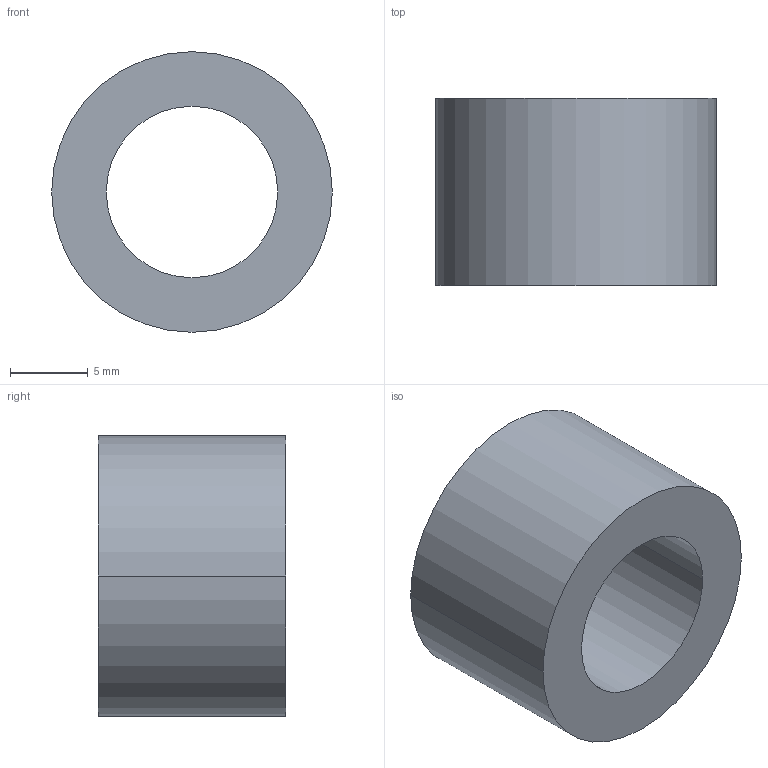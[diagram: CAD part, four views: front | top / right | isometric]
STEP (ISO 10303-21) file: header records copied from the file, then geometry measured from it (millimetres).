
FILE_DESCRIPTION (( 'STEP AP203' ), '1' );
FILE_NAME ('30800.WPP18E11.0.step', '2019-01-23T22:36:06', ( '' ), ( '' ), 'SwSTEP 2.0', 'SolidWorks 2017', '' );
FILE_SCHEMA (( 'CONFIG_CONTROL_DESIGN' ));
Length unit declared in the file: millimetre
Products named in the file (1): 30800.WPP18E11.0
Bounding box: 18 x 12 x 18 mm (x, y, z)
Volume: 1881.2 mm3; surface area: 1384.3 mm2
Topology: 1 solids, 1 shells, 8 faces, 16 edges, 10 vertices
Faces by surface type: cylinder 4, torus 2, plane 2
Entity records: 297 total; most frequent: DIRECTION 46, CARTESIAN_POINT 35, ORIENTED_EDGE 32, AXIS2_PLACEMENT_3D 21, EDGE_CURVE 16, CIRCLE 12, VERTEX_POINT 10, EDGE_LOOP 10
